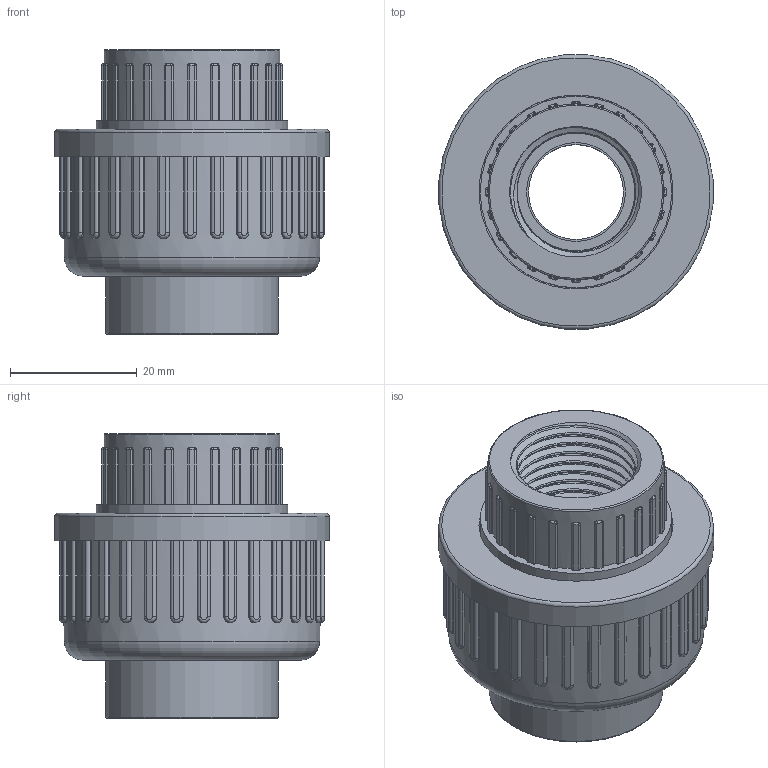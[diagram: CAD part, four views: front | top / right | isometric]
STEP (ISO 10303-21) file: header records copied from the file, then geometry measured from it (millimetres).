
FILE_DESCRIPTION(/* description */ (''),/* implementation_level */ '2;1');
FILE_NAME(/* name */ 'C:\Users\POLYPIPE\Desktop\DATASET INVENTOR\LIBRERIA EFFAST\3D_RACCORDI\RER\3D_RERBOE\3D_RERBOE020B.stp',/* time_stamp */ '2018-01-22T15:56:05+01:00',/* author */ ('POLYPIPE'),/* organization */ (''),/* preprocessor_version */ 'ST-DEVELOPER v16.1',/* originating_system */ 'Autodesk Inventor 2016',/* authorisation */ '');
FILE_SCHEMA (('CONFIG_CONTROL_DESIGN'));
Length unit declared in the file: centimetre
Products named in the file (1): 3D_RERBOE
Bounding box: 43.35 x 43.35 x 45 mm (x, y, z)
Volume: 31324.5 mm3; surface area: 15932.4 mm2
Topology: 1 solids, 1 shells, 518 faces, 1382 edges, 877 vertices
Faces by surface type: cylinder 223, plane 201, bspline 88, torus 4, cone 2
Full cylindrical faces by diameter (mm): 15 x1, 15.631 x1, 18 x1, 18.631 x2, 27.4 x1, 27.8 x1, 27.9 x1, 30 x1, 30.291 x1, 30.7 x1, 40.5 x1, 43.5 x1
Entity records: 23688 total; most frequent: CARTESIAN_POINT 10485, ORIENTED_EDGE 2720, DIRECTION 2622, EDGE_CURVE 1360, AXIS2_PLACEMENT_3D 963, VERTEX_POINT 873, LINE 696, VECTOR 696
